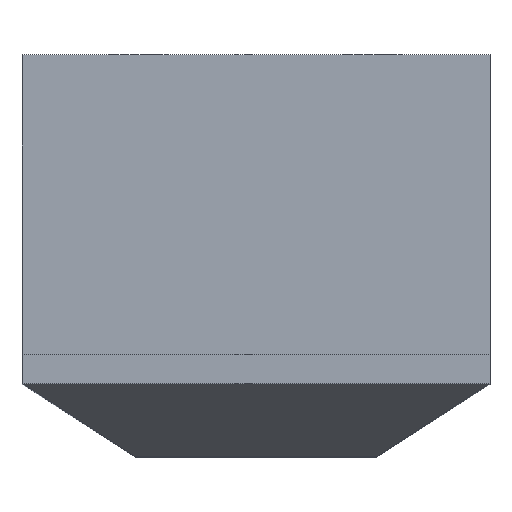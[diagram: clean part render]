
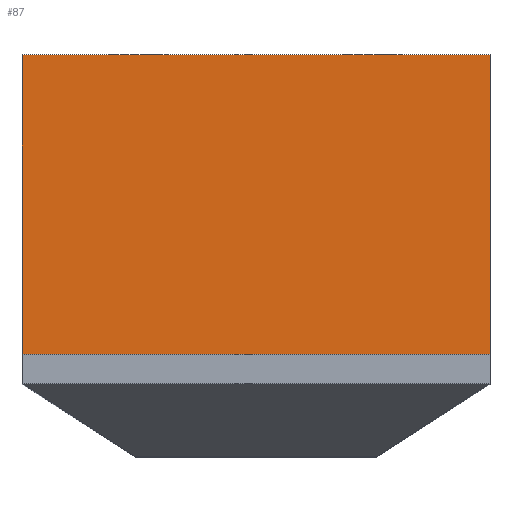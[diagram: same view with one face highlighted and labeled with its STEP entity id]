
A CAD part, top view. The second image highlights one B-rep face of the part: STEP entity #87.
In plain terms, the highlighted planar face has unit normal (0, 0, 1).
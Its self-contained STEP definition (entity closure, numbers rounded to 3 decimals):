
#87 = ADVANCED_FACE( '', ( #120 ), #121, .T. );
#120 = FACE_OUTER_BOUND( '', #162, .T. );
#121 = PLANE( '', #163 );
#162 = EDGE_LOOP( '', ( #268, #269, #270, #271 ) );
#163 = AXIS2_PLACEMENT_3D( '', #272, #273, #274 );
#268 = ORIENTED_EDGE( '', *, *, #350, .T. );
#269 = ORIENTED_EDGE( '', *, *, #366, .F. );
#270 = ORIENTED_EDGE( '', *, *, #357, .T. );
#271 = ORIENTED_EDGE( '', *, *, #364, .T. );
#272 = CARTESIAN_POINT( '', ( -8., -20.5, 3.6 ) );
#273 = DIRECTION( '', ( 0., 0., 1. ) );
#274 = DIRECTION( '', ( 0., -1., 0. ) );
#350 = EDGE_CURVE( '', #413, #411, #414, .T. );
#357 = EDGE_CURVE( '', #423, #424, #425, .T. );
#364 = EDGE_CURVE( '', #424, #413, #436, .T. );
#366 = EDGE_CURVE( '', #423, #411, #438, .T. );
#411 = VERTEX_POINT( '', #496 );
#413 = VERTEX_POINT( '', #499 );
#414 = LINE( '', #500, #501 );
#423 = VERTEX_POINT( '', #516 );
#424 = VERTEX_POINT( '', #517 );
#425 = LINE( '', #518, #519 );
#436 = LINE( '', #536, #537 );
#438 = LINE( '', #540, #541 );
#496 = CARTESIAN_POINT( '', ( 24., 0., 3.6 ) );
#499 = CARTESIAN_POINT( '', ( 24., -20.5, 3.6 ) );
#500 = CARTESIAN_POINT( '', ( 24., 0., 3.6 ) );
#501 = VECTOR( '', #590, 1. );
#516 = CARTESIAN_POINT( '', ( -8., 0., 3.6 ) );
#517 = CARTESIAN_POINT( '', ( -8., -20.5, 3.6 ) );
#518 = CARTESIAN_POINT( '', ( -8., 0., 3.6 ) );
#519 = VECTOR( '', #597, 1. );
#536 = CARTESIAN_POINT( '', ( -8., -20.5, 3.6 ) );
#537 = VECTOR( '', #604, 1. );
#540 = CARTESIAN_POINT( '', ( -8., 0., 3.6 ) );
#541 = VECTOR( '', #606, 1. );
#590 = DIRECTION( '', ( 0., 1., 0. ) );
#597 = DIRECTION( '', ( 0., -1., 0. ) );
#604 = DIRECTION( '', ( 1., 0., 0. ) );
#606 = DIRECTION( '', ( 1., 0., 0. ) );
